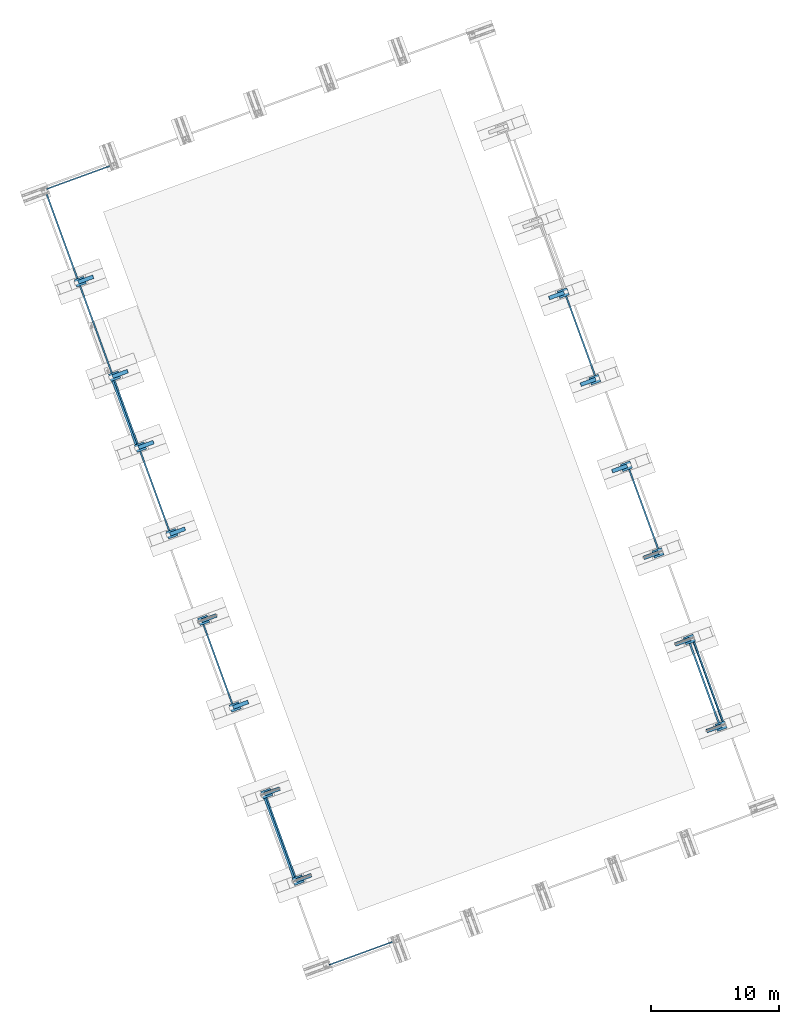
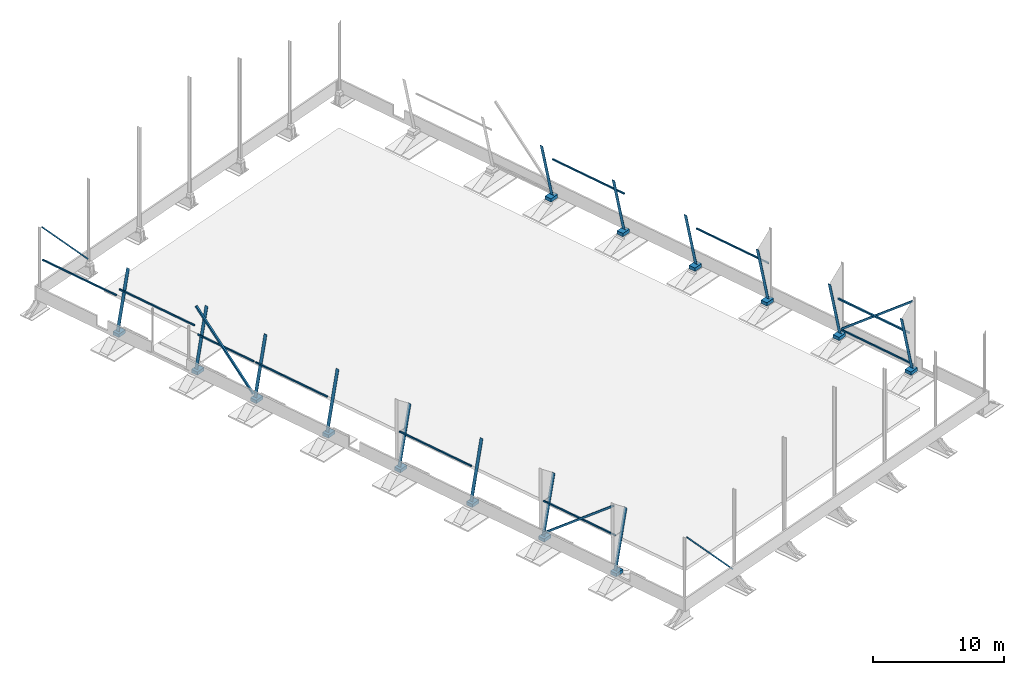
# One storey, part 8 of 20: 24 beams, 19 members, 43 elements without a shape of their own.
"""IFC4 building model written with IfcOpenShell, lengths in millimetres."""

from ifc_helpers import new_model, si_unit, direction, frame, origin_with_axes, place, context, subcontext, project, spatial, line, indexed_curve, outline, extrude, material, element, aggregate, save


model = new_model("IFC4")

# Units and contexts
model_context = context("Model", 3, precision=0.2, world=frame((203566.813, 116264.779, 0.0), z_axis=(0.0, 0.0, 1.0), x_axis=(1.0, 0.0, 0.0)), true_north=direction((-0.9396138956, -0.3422363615)))
body_context = subcontext(model_context, "Body", "Model", "MODEL_VIEW")
ifc_project = project(units=[si_unit("LENGTHUNIT", "METRE", prefix="MILLI"), si_unit("AREAUNIT", "SQUARE_METRE"), si_unit("VOLUMEUNIT", "CUBIC_METRE"), si_unit("MASSUNIT", "GRAM", prefix="KILO"), si_unit("TIMEUNIT", "SECOND"), si_unit("PLANEANGLEUNIT", "RADIAN"), si_unit("SOLIDANGLEUNIT", "STERADIAN"), si_unit("THERMODYNAMICTEMPERATUREUNIT", "DEGREE_CELSIUS"), si_unit("LUMINOUSINTENSITYUNIT", "LUMEN")], contexts=[model_context])

# Site, building, storey
site_placement = place(None, origin_with_axes())
site = spatial("IfcSite", under=ifc_project, at=site_placement, Name="Nobelprojektet", CompositionType="ELEMENT")
building_placement = place(site_placement, origin_with_axes())
building = spatial("IfcBuilding", under=site, at=building_placement, Name="Hall B", CompositionType="ELEMENT")
storey_placement = place(building_placement, frame((0.0, 0.0, 1000.0), z_axis=(0.0, 0.0, 1.0), x_axis=(1.0, 0.0, 0.0)))
storey = spatial("IfcBuildingStorey", under=building, at=storey_placement, Name="Plan_1", CompositionType="ELEMENT", Elevation=1000.0)

# Assembly, member
assembly_1_placement = place(storey_placement, frame((148302.31874, 119778.5919, 132198.26321), z_axis=(0.9144795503, 0.3330824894, -0.2297459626), x_axis=(0.215872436, 0.078627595, 0.973250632)))
assembly_1 = element("IfcElementAssembly", 1, at=assembly_1_placement, inside=storey, Name="BEF. STOMME", PredefinedType="NOTDEFINED")
ifc_material_1 = material(Name="S355J2", Category="STEEL")
member_1_placement = place(assembly_1_placement, origin_with_axes())
member_1 = element("IfcMember", 2, at=member_1_placement, material=ifc_material_1, Name="BEF. STOMME", PredefinedType="NOTDEFINED", context=body_context, shape_type="SolidModel", body=[
    extrude(outline(indexed_curve([(-7.5, -150.0), (7.5, -150.0), (7.5, 150.0), (-7.5, 150.0)], segments=[line(1, 2, 3, 4, 1)])), frame((0.0, 0.0, 0.0), z_axis=(-1.0, 0.0, 0.0), x_axis=(0.0, 0.0, 1.0)), (0.0, 0.0, -1.0), 5396.42619),
])
aggregate(assembly_1, [member_1])

assembly_2_placement = place(storey_placement, frame((181533.44743, 131882.42393, 132198.26102), z_axis=(0.9144795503, 0.3330824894, 0.2297459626), x_axis=(-0.215872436, -0.078627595, 0.973250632)))
assembly_2 = element("IfcElementAssembly", 3, at=assembly_2_placement, inside=storey, Name="BEF. STOMME", PredefinedType="NOTDEFINED")
member_2_placement = place(assembly_2_placement, origin_with_axes())
member_2 = element("IfcMember", 4, at=member_2_placement, material=ifc_material_1, Name="BEF. STOMME", PredefinedType="NOTDEFINED", context=body_context, shape_type="SolidModel", body=[
    extrude(outline(indexed_curve([(-7.5, -150.0), (7.5, -150.0), (7.5, 150.0), (-7.5, 150.0)], segments=[line(1, 2, 3, 4, 1)])), frame((0.0, 0.0, 0.0), z_axis=(-1.0, 0.0, 0.0), x_axis=(0.0, 0.0, 1.0)), (0.0, 0.0, -1.0), 5396.42619),
])
aggregate(assembly_2, [member_2])

assembly_3_placement = place(storey_placement, frame((145838.21137, 126543.80947, 132198.26321), z_axis=(0.9144795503, 0.3330824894, -0.2297459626), x_axis=(0.215872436, 0.078627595, 0.973250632)))
assembly_3 = element("IfcElementAssembly", 5, at=assembly_3_placement, inside=storey, Name="BEF. STOMME", PredefinedType="NOTDEFINED")
member_3_placement = place(assembly_3_placement, origin_with_axes())
member_3 = element("IfcMember", 6, at=member_3_placement, material=ifc_material_1, Name="BEF. STOMME", PredefinedType="NOTDEFINED", context=body_context, shape_type="SolidModel", body=[
    extrude(outline(indexed_curve([(-7.5, -150.0), (7.5, -150.0), (7.5, 150.0), (-7.5, 150.0)], segments=[line(1, 2, 3, 4, 1)])), frame((0.0, 0.0, 0.0), z_axis=(-1.0, 0.0, 0.0), x_axis=(0.0, 0.0, 1.0)), (0.0, 0.0, -1.0), 5396.42619),
])
aggregate(assembly_3, [member_3])

assembly_4_placement = place(storey_placement, frame((179069.34014, 138647.64225, 132198.26102), z_axis=(0.9144795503, 0.3330824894, 0.2297459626), x_axis=(-0.215872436, -0.078627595, 0.973250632)))
assembly_4 = element("IfcElementAssembly", 7, at=assembly_4_placement, inside=storey, Name="BEF. STOMME", PredefinedType="NOTDEFINED")
member_4_placement = place(assembly_4_placement, origin_with_axes())
member_4 = element("IfcMember", 8, at=member_4_placement, material=ifc_material_1, Name="BEF. STOMME", PredefinedType="NOTDEFINED", context=body_context, shape_type="SolidModel", body=[
    extrude(outline(indexed_curve([(-7.5, -150.0), (7.5, -150.0), (7.5, 150.0), (-7.5, 150.0)], segments=[line(1, 2, 3, 4, 1)])), frame((0.0, 0.0, 0.0), z_axis=(-1.0, 0.0, 0.0), x_axis=(0.0, 0.0, 1.0)), (0.0, 0.0, -1.0), 5396.42619),
])
aggregate(assembly_4, [member_4])

assembly_5_placement = place(storey_placement, frame((140909.99648, 140074.24606, 132198.26321), z_axis=(0.9144795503, 0.3330824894, -0.2297459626), x_axis=(0.215872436, 0.078627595, 0.973250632)))
assembly_5 = element("IfcElementAssembly", 9, at=assembly_5_placement, inside=storey, Name="BEF. STOMME", PredefinedType="NOTDEFINED")
member_5_placement = place(assembly_5_placement, origin_with_axes())
member_5 = element("IfcMember", 10, at=member_5_placement, material=ifc_material_1, Name="BEF. STOMME", PredefinedType="NOTDEFINED", context=body_context, shape_type="SolidModel", body=[
    extrude(outline(indexed_curve([(-7.5, -150.0), (7.5, -150.0), (7.5, 150.0), (-7.5, 150.0)], segments=[line(1, 2, 3, 4, 1)])), frame((0.0, 0.0, 0.0), z_axis=(-1.0, 0.0, 0.0), x_axis=(0.0, 0.0, 1.0)), (0.0, 0.0, -1.0), 5396.42619),
])
aggregate(assembly_5, [member_5])

assembly_6_placement = place(storey_placement, frame((176605.23286, 145412.86058, 132198.26102), z_axis=(0.9144795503, 0.3330824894, 0.2297459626), x_axis=(-0.215872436, -0.078627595, 0.973250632)))
assembly_6 = element("IfcElementAssembly", 11, at=assembly_6_placement, inside=storey, Name="BEF. STOMME", PredefinedType="NOTDEFINED")
member_6_placement = place(assembly_6_placement, origin_with_axes())
member_6 = element("IfcMember", 12, at=member_6_placement, material=ifc_material_1, Name="BEF. STOMME", PredefinedType="NOTDEFINED", context=body_context, shape_type="SolidModel", body=[
    extrude(outline(indexed_curve([(-7.5, -150.0), (7.5, -150.0), (7.5, 150.0), (-7.5, 150.0)], segments=[line(1, 2, 3, 4, 1)])), frame((0.0, 0.0, 0.0), z_axis=(-1.0, 0.0, 0.0), x_axis=(0.0, 0.0, 1.0)), (0.0, 0.0, -1.0), 5396.42619),
])
aggregate(assembly_6, [member_6])

# Assembly, beam
assembly_7_placement = place(storey_placement, frame((148329.37262, 119776.66387, 135487.49505), z_axis=(0.0, 0.0, -1.0), x_axis=(-0.3422371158, 0.9396136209, 1.3e-09)))
assembly_7 = element("IfcElementAssembly", 13, at=assembly_7_placement, inside=storey, Name="BEF. STOMME", PredefinedType="NOTDEFINED")
beam_1_placement = place(assembly_7_placement, origin_with_axes())
beam_1 = element("IfcBeam", 14, at=beam_1_placement, material=ifc_material_1, Name="BEF. STOMME", PredefinedType="NOTDEFINED", context=body_context, shape_type="SolidModel", body=[
    extrude(outline(indexed_curve([(-60.0, -60.0), (60.0, -60.0), (60.0, 60.0), (-60.0, 60.0)], segments=[line(1, 2, 3, 4, 1)]), holes=[indexed_curve([(-55.0, -55.0), (-55.0, 55.0), (55.0, 55.0), (55.0, -55.0)], segments=[line(1, 2, 3, 4, 1)])]), frame((0.0, 0.0, 0.0), z_axis=(-1.0, 0.0, 0.0), x_axis=(0.0, 0.0, 1.0)), (0.0, 0.0, -1.0), 7192.0),
])
aggregate(assembly_7, [beam_1])

assembly_8_placement = place(storey_placement, frame((143401.15815, 133307.10001, 135487.49505), z_axis=(0.0, 0.0, -1.0), x_axis=(-0.3422371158, 0.9396136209, 1.3e-09)))
assembly_8 = element("IfcElementAssembly", 15, at=assembly_8_placement, inside=storey, Name="BEF. STOMME", PredefinedType="NOTDEFINED")
beam_2_placement = place(assembly_8_placement, origin_with_axes())
beam_2 = element("IfcBeam", 16, at=beam_2_placement, material=ifc_material_1, Name="BEF. STOMME", PredefinedType="NOTDEFINED", context=body_context, shape_type="SolidModel", body=[
    extrude(outline(indexed_curve([(-60.0, -60.0), (60.0, -60.0), (60.0, 60.0), (-60.0, 60.0)], segments=[line(1, 2, 3, 4, 1)]), holes=[indexed_curve([(-55.0, -55.0), (-55.0, 55.0), (55.0, 55.0), (55.0, -55.0)], segments=[line(1, 2, 3, 4, 1)])]), frame((0.0, 0.0, 0.0), z_axis=(-1.0, 0.0, 0.0), x_axis=(0.0, 0.0, 1.0)), (0.0, 0.0, -1.0), 7192.0),
])
aggregate(assembly_8, [beam_2])

assembly_9_placement = place(storey_placement, frame((138472.94368, 146837.53615, 135487.49505), z_axis=(0.0, 0.0, -1.0), x_axis=(-0.3422371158, 0.9396136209, 1.3e-09)))
assembly_9 = element("IfcElementAssembly", 17, at=assembly_9_placement, inside=storey, Name="BEF. STOMME", PredefinedType="NOTDEFINED")
beam_3_placement = place(assembly_9_placement, origin_with_axes())
beam_3 = element("IfcBeam", 18, at=beam_3_placement, material=ifc_material_1, Name="BEF. STOMME", PredefinedType="NOTDEFINED", context=body_context, shape_type="SolidModel", body=[
    extrude(outline(indexed_curve([(-60.0, -60.0), (60.0, -60.0), (60.0, 60.0), (-60.0, 60.0)], segments=[line(1, 2, 3, 4, 1)]), holes=[indexed_curve([(-55.0, -55.0), (-55.0, 55.0), (55.0, 55.0), (55.0, -55.0)], segments=[line(1, 2, 3, 4, 1)])]), frame((0.0, 0.0, 0.0), z_axis=(-1.0, 0.0, 0.0), x_axis=(0.0, 0.0, 1.0)), (0.0, 0.0, -1.0), 7192.0),
])
aggregate(assembly_9, [beam_3])

assembly_10_placement = place(storey_placement, frame((131244.15656, 166684.20539, 135487.49505), z_axis=(0.0, 0.0, -1.0), x_axis=(-0.3422371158, 0.9396136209, 1.3e-09)))
assembly_10 = element("IfcElementAssembly", 19, at=assembly_10_placement, inside=storey, Name="BEF. STOMME", PredefinedType="NOTDEFINED")
beam_4_placement = place(assembly_10_placement, origin_with_axes())
beam_4 = element("IfcBeam", 20, at=beam_4_placement, material=ifc_material_1, Name="BEF. STOMME", PredefinedType="NOTDEFINED", context=body_context, shape_type="SolidModel", body=[
    extrude(outline(indexed_curve([(-60.0, -60.0), (60.0, -60.0), (60.0, 60.0), (-60.0, 60.0)], segments=[line(1, 2, 3, 4, 1)]), holes=[indexed_curve([(-55.0, -55.0), (-55.0, 55.0), (55.0, 55.0), (55.0, -55.0)], segments=[line(1, 2, 3, 4, 1)])]), frame((0.0, 0.0, 0.0), z_axis=(-1.0, 0.0, 0.0), x_axis=(0.0, 0.0, 1.0)), (0.0, 0.0, -1.0), 7370.0),
])
aggregate(assembly_10, [beam_4])

assembly_11_placement = place(storey_placement, frame((181361.3799, 131938.39572, 135487.49505), z_axis=(0.0, 0.0, -1.0), x_axis=(-0.3422371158, 0.9396136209, 1.3e-09)))
assembly_11 = element("IfcElementAssembly", 21, at=assembly_11_placement, inside=storey, Name="BEF. STOMME", PredefinedType="NOTDEFINED")
beam_5_placement = place(assembly_11_placement, origin_with_axes())
beam_5 = element("IfcBeam", 22, at=beam_5_placement, material=ifc_material_1, Name="BEF. STOMME", PredefinedType="NOTDEFINED", context=body_context, shape_type="SolidModel", body=[
    extrude(outline(indexed_curve([(-70.0, -70.0), (70.0, -70.0), (70.0, 70.0), (-70.0, 70.0)], segments=[line(1, 2, 3, 4, 1)]), holes=[indexed_curve([(-65.0, -65.0), (-65.0, 65.0), (65.0, 65.0), (65.0, -65.0)], segments=[line(1, 2, 3, 4, 1)])]), frame((0.0, 0.0, 0.0), z_axis=(-1.0, 0.0, 0.0), x_axis=(0.0, 0.0, 1.0)), (0.0, 0.0, -1.0), 7192.0),
])
aggregate(assembly_11, [beam_5])

assembly_12_placement = place(storey_placement, frame((176663.48033, 145422.29391, 135487.49505), z_axis=(0.0, 0.0, -1.0), x_axis=(-0.3422371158, 0.9396136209, 1.3e-09)))
assembly_12 = element("IfcElementAssembly", 23, at=assembly_12_placement, inside=storey, Name="BEF. STOMME", PredefinedType="NOTDEFINED")
beam_6_placement = place(assembly_12_placement, origin_with_axes())
beam_6 = element("IfcBeam", 24, at=beam_6_placement, material=ifc_material_1, Name="BEF. STOMME", PredefinedType="NOTDEFINED", context=body_context, shape_type="SolidModel", body=[
    extrude(outline(indexed_curve([(-60.0, -60.0), (60.0, -60.0), (60.0, 60.0), (-60.0, 60.0)], segments=[line(1, 2, 3, 4, 1)]), holes=[indexed_curve([(-55.0, -55.0), (-55.0, 55.0), (55.0, 55.0), (55.0, -55.0)], segments=[line(1, 2, 3, 4, 1)])]), frame((0.0, 0.0, 0.0), z_axis=(-1.0, 0.0, 0.0), x_axis=(0.0, 0.0, 1.0)), (0.0, 0.0, -1.0), 7192.0),
])
aggregate(assembly_12, [beam_6])

assembly_13_placement = place(storey_placement, frame((171735.26586, 158952.73005, 135487.49505), z_axis=(0.0, 0.0, -1.0), x_axis=(-0.3422371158, 0.9396136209, 1.3e-09)))
assembly_13 = element("IfcElementAssembly", 25, at=assembly_13_placement, inside=storey, Name="BEF. STOMME", PredefinedType="NOTDEFINED")
beam_7_placement = place(assembly_13_placement, origin_with_axes())
beam_7 = element("IfcBeam", 26, at=beam_7_placement, material=ifc_material_1, Name="BEF. STOMME", PredefinedType="NOTDEFINED", context=body_context, shape_type="SolidModel", body=[
    extrude(outline(indexed_curve([(-60.0, -60.0), (60.0, -60.0), (60.0, 60.0), (-60.0, 60.0)], segments=[line(1, 2, 3, 4, 1)]), holes=[indexed_curve([(-55.0, -55.0), (-55.0, 55.0), (55.0, 55.0), (55.0, -55.0)], segments=[line(1, 2, 3, 4, 1)])]), frame((0.0, 0.0, 0.0), z_axis=(-1.0, 0.0, 0.0), x_axis=(0.0, 0.0, 1.0)), (0.0, 0.0, -1.0), 7192.0),
])
aggregate(assembly_13, [beam_7])

# Assembly, member
assembly_14_placement = place(storey_placement, frame((150851.25706, 113187.86282, 138411.36493), z_axis=(-0.68978234, -0.2512406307, -0.6790275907), x_axis=(0.638023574, 0.232388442, -0.7341127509)))
assembly_14 = element("IfcElementAssembly", 27, at=assembly_14_placement, inside=storey, Name="BEF. STOMME", PredefinedType="NOTDEFINED")
member_7_placement = place(assembly_14_placement, origin_with_axes())
member_7 = element("IfcMember", 28, at=member_7_placement, material=ifc_material_1, Name="BEF. STOMME", PredefinedType="NOTDEFINED", context=body_context, shape_type="SolidModel", body=[
    extrude(outline(indexed_curve([(-50.0, -50.0), (50.0, -50.0), (50.0, 50.0), (-50.0, 50.0)], segments=[line(1, 2, 3, 4, 1)]), holes=[indexed_curve([(-46.0, -46.0), (-46.0, 46.0), (46.0, 46.0), (46.0, -46.0)], segments=[line(1, 2, 3, 4, 1)])]), frame((0.0, 0.0, 0.0), z_axis=(-1.0, 0.0, 0.0), x_axis=(0.0, 0.0, 1.0)), (0.0, 0.0, -1.0), 8019.5606),
])
aggregate(assembly_14, [member_7])

assembly_15_placement = place(storey_placement, frame((128776.95531, 173792.96272, 138411.36493), z_axis=(0.68978234, 0.2512406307, 0.6790275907), x_axis=(0.638023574, 0.232388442, -0.7341127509)))
assembly_15 = element("IfcElementAssembly", 29, at=assembly_15_placement, inside=storey, Name="BEF. STOMME", PredefinedType="NOTDEFINED")
member_8_placement = place(assembly_15_placement, origin_with_axes())
member_8 = element("IfcMember", 30, at=member_8_placement, material=ifc_material_1, Name="BEF. STOMME", PredefinedType="NOTDEFINED", context=body_context, shape_type="SolidModel", body=[
    extrude(outline(indexed_curve([(-50.0, -50.0), (50.0, -50.0), (50.0, 50.0), (-50.0, 50.0)], segments=[line(1, 2, 3, 4, 1)]), holes=[indexed_curve([(-46.0, -46.0), (-46.0, 46.0), (46.0, 46.0), (46.0, -46.0)], segments=[line(1, 2, 3, 4, 1)])]), frame((0.0, 0.0, 0.0), z_axis=(-1.0, 0.0, 0.0), x_axis=(0.0, 0.0, 1.0)), (0.0, 0.0, -1.0), 8019.5606),
])
aggregate(assembly_15, [member_8])

# Assembly, beam
assembly_16_placement = place(storey_placement, frame((181729.23833, 131946.21256, 132400.00505), z_axis=(0.0, 0.0, -1.0), x_axis=(-0.3422371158, 0.9396136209, 1.3e-09)))
assembly_16 = element("IfcElementAssembly", 31, at=assembly_16_placement, inside=storey, Name="BEF. STOMME", PredefinedType="NOTDEFINED")
beam_8_placement = place(assembly_16_placement, origin_with_axes())
beam_8 = element("IfcBeam", 32, at=beam_8_placement, material=ifc_material_1, Name="BEF. STOMME", PredefinedType="NOTDEFINED", context=body_context, shape_type="SolidModel", body=[
    extrude(outline(indexed_curve([(-60.0, -60.0), (60.0, -60.0), (60.0, 60.0), (-60.0, 60.0)], segments=[line(1, 2, 3, 4, 1)]), holes=[indexed_curve([(-55.0, -55.0), (-55.0, 55.0), (55.0, 55.0), (55.0, -55.0)], segments=[line(1, 2, 3, 4, 1)])]), frame((0.0, 0.0, 0.0), z_axis=(-1.0, 0.0, 0.0), x_axis=(0.0, 0.0, 1.0)), (0.0, 0.0, -1.0), 7192.0),
])
aggregate(assembly_16, [beam_8])

# Assembly, member
assembly_17_placement = place(storey_placement, frame((181676.95473, 132031.31841, 138279.10505), z_axis=(0.2160743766, -0.5932332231, -0.7754909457), x_axis=(-0.2654017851, 0.7286618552, -0.6313586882)))
assembly_17 = element("IfcElementAssembly", 33, at=assembly_17_placement, inside=storey, Name="BEF. STOMME", PredefinedType="NOTDEFINED")
member_9_placement = place(assembly_17_placement, origin_with_axes())
member_9 = element("IfcMember", 34, at=member_9_placement, material=ifc_material_1, Name="BEF. STOMME", PredefinedType="NOTDEFINED", context=body_context, shape_type="SolidModel", body=[
    extrude(outline(indexed_curve([(-80.0, -80.0), (80.0, -80.0), (80.0, 80.0), (-80.0, 80.0)], segments=[line(1, 2, 3, 4, 1)]), holes=[indexed_curve([(-74.0, -74.0), (-74.0, 74.0), (74.0, 74.0), (74.0, -74.0)], segments=[line(1, 2, 3, 4, 1)])]), frame((0.0, 0.0, 0.0), z_axis=(-1.0, 0.0, 0.0), x_axis=(0.0, 0.0, 1.0)), (0.0, 0.0, -1.0), 9081.03446),
])
aggregate(assembly_17, [member_9])

# Assembly, beam
assembly_18_placement = place(storey_placement, frame((133923.8766, 159327.02134, 136189.99505), z_axis=(0.0, 0.0, -1.0), x_axis=(-0.3422371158, 0.9396136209, 1.3e-09)))
assembly_18 = element("IfcElementAssembly", 35, at=assembly_18_placement, inside=storey, Name="BEF. STOMME", PredefinedType="NOTDEFINED")
beam_9_placement = place(assembly_18_placement, origin_with_axes())
beam_9 = element("IfcBeam", 36, at=beam_9_placement, material=ifc_material_1, Name="BEF. STOMME", PredefinedType="NOTDEFINED", context=body_context, shape_type="SolidModel", body=[
    extrude(outline(indexed_curve([(-60.0, -60.0), (60.0, -60.0), (60.0, 60.0), (-60.0, 60.0)], segments=[line(1, 2, 3, 4, 1)]), holes=[indexed_curve([(-55.0, -55.0), (-55.0, 55.0), (55.0, 55.0), (55.0, -55.0)], segments=[line(1, 2, 3, 4, 1)])]), frame((0.0, 0.0, 0.0), z_axis=(-1.0, 0.0, 0.0), x_axis=(0.0, 0.0, 1.0)), (0.0, 0.0, -1.0), 7510.0),
])
aggregate(assembly_18, [beam_9])

assembly_19_placement = place(storey_placement, frame((135955.3927, 153749.48428, 135487.49505), z_axis=(0.0, 0.0, -1.0), x_axis=(-0.3422371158, 0.9396136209, 1.3e-09)))
assembly_19 = element("IfcElementAssembly", 37, at=assembly_19_placement, inside=storey, Name="BEF. STOMME", PredefinedType="NOTDEFINED")
beam_10_placement = place(assembly_19_placement, origin_with_axes())
beam_10 = element("IfcBeam", 38, at=beam_10_placement, material=ifc_material_1, Name="BEF. STOMME", PredefinedType="NOTDEFINED", context=body_context, shape_type="SolidModel", body=[
    extrude(outline(indexed_curve([(-60.0, -60.0), (60.0, -60.0), (60.0, 60.0), (-60.0, 60.0)], segments=[line(1, 2, 3, 4, 1)]), holes=[indexed_curve([(-55.0, -55.0), (-55.0, 55.0), (55.0, 55.0), (55.0, -55.0)], segments=[line(1, 2, 3, 4, 1)])]), frame((0.0, 0.0, 0.0), z_axis=(-1.0, 0.0, 0.0), x_axis=(0.0, 0.0, 1.0)), (0.0, 0.0, -1.0), 5617.0),
])
aggregate(assembly_19, [beam_10])

# Assembly, member
assembly_20_placement = place(storey_placement, frame((133880.67684, 159042.85794, 138202.289), z_axis=(0.2404468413, -0.6601479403, 0.7116108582), x_axis=(0.243539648, -0.668639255, -0.70257383)))
assembly_20 = element("IfcElementAssembly", 39, at=assembly_20_placement, inside=storey, Name="BEF. STOMME", PredefinedType="NOTDEFINED")
member_10_placement = place(assembly_20_placement, origin_with_axes())
member_10 = element("IfcMember", 40, at=member_10_placement, material=ifc_material_1, Name="BEF. STOMME", PredefinedType="NOTDEFINED", context=body_context, shape_type="SolidModel", body=[
    extrude(outline(indexed_curve([(-80.0, -80.0), (80.0, -80.0), (80.0, 80.0), (-80.0, 80.0)], segments=[line(1, 2, 3, 4, 1)]), holes=[indexed_curve([(-74.0, -74.0), (-74.0, 74.0), (74.0, 74.0), (74.0, -74.0)], segments=[line(1, 2, 3, 4, 1)])]), frame((0.0, 0.0, 0.0), z_axis=(-1.0, 0.0, 0.0), x_axis=(0.0, 0.0, 1.0)), (0.0, 0.0, -1.0), 8059.93135),
])
aggregate(assembly_20, [member_10])

assembly_21_placement = place(storey_placement, frame((148166.30651, 119821.59409, 138279.089), z_axis=(0.2160743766, -0.5932332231, -0.7754909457), x_axis=(-0.2654017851, 0.7286618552, -0.6313586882)))
assembly_21 = element("IfcElementAssembly", 41, at=assembly_21_placement, inside=storey, Name="BEF. STOMME", PredefinedType="NOTDEFINED")
member_11_placement = place(assembly_21_placement, origin_with_axes())
member_11 = element("IfcMember", 42, at=member_11_placement, material=ifc_material_1, Name="BEF. STOMME", PredefinedType="NOTDEFINED", context=body_context, shape_type="SolidModel", body=[
    extrude(outline(indexed_curve([(-80.0, -80.0), (80.0, -80.0), (80.0, 80.0), (-80.0, 80.0)], segments=[line(1, 2, 3, 4, 1)]), holes=[indexed_curve([(-74.0, -74.0), (-74.0, 74.0), (74.0, 74.0), (74.0, -74.0)], segments=[line(1, 2, 3, 4, 1)])]), frame((0.0, 0.0, 0.0), z_axis=(-1.0, 0.0, 0.0), x_axis=(0.0, 0.0, 1.0)), (0.0, 0.0, -1.0), 9081.02833),
])
aggregate(assembly_21, [member_11])

# Assembly, beam
assembly_22_placement = place(storey_placement, frame((168774.52676, 165532.80003, 132024.99996), z_axis=(0.3422371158, -0.9396136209, 1.3e-09), x_axis=(0.9396136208, 0.3422371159, 0.0)))
assembly_22 = element("IfcElementAssembly", 43, at=assembly_22_placement, inside=storey, Name="BALK", PredefinedType="NOTDEFINED")
ifc_material_2 = material(Name="C25/30", Category="CONCRETE")
beam_11_placement = place(assembly_22_placement, origin_with_axes())
beam_11 = element("IfcBeam", 44, at=beam_11_placement, material=ifc_material_2, Name="BALK", PredefinedType="NOTDEFINED", context=body_context, shape_type="SolidModel", body=[
    extrude(outline(indexed_curve([(-300.0, -155.0), (300.0, -155.0), (300.0, 155.0), (-300.0, 155.0)], segments=[line(1, 2, 3, 4, 1)])), frame((0.0, 0.0, 0.0), z_axis=(-1.0, 0.0, 0.0), x_axis=(0.0, 0.0, 1.0)), (0.0, 0.0, -1.0), 800.0),
])
aggregate(assembly_22, [beam_11])

assembly_23_placement = place(storey_placement, frame((171238.634, 158767.58196, 132024.99996), z_axis=(0.3422371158, -0.9396136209, 1.3e-09), x_axis=(0.9396136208, 0.3422371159, 0.0)))
assembly_23 = element("IfcElementAssembly", 45, at=assembly_23_placement, inside=storey, Name="BALK", PredefinedType="NOTDEFINED")
beam_12_placement = place(assembly_23_placement, origin_with_axes())
beam_12 = element("IfcBeam", 46, at=beam_12_placement, material=ifc_material_2, Name="BALK", PredefinedType="NOTDEFINED", context=body_context, shape_type="SolidModel", body=[
    extrude(outline(indexed_curve([(-300.0, -155.0), (300.0, -155.0), (300.0, 155.0), (-300.0, 155.0)], segments=[line(1, 2, 3, 4, 1)])), frame((0.0, 0.0, 0.0), z_axis=(-1.0, 0.0, 0.0), x_axis=(0.0, 0.0, 1.0)), (0.0, 0.0, -1.0), 800.0),
])
aggregate(assembly_23, [beam_12])

assembly_24_placement = place(storey_placement, frame((173702.74123, 152002.36389, 132024.99996), z_axis=(0.3422371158, -0.9396136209, 1.3e-09), x_axis=(0.9396136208, 0.3422371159, 0.0)))
assembly_24 = element("IfcElementAssembly", 47, at=assembly_24_placement, inside=storey, Name="BALK", PredefinedType="NOTDEFINED")
beam_13_placement = place(assembly_24_placement, origin_with_axes())
beam_13 = element("IfcBeam", 48, at=beam_13_placement, material=ifc_material_2, Name="BALK", PredefinedType="NOTDEFINED", context=body_context, shape_type="SolidModel", body=[
    extrude(outline(indexed_curve([(-300.0, -155.0), (300.0, -155.0), (300.0, 155.0), (-300.0, 155.0)], segments=[line(1, 2, 3, 4, 1)])), frame((0.0, 0.0, 0.0), z_axis=(-1.0, 0.0, 0.0), x_axis=(0.0, 0.0, 1.0)), (0.0, 0.0, -1.0), 800.0),
])
aggregate(assembly_24, [beam_13])

assembly_25_placement = place(storey_placement, frame((176166.84846, 145237.14582, 132024.99996), z_axis=(0.3422371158, -0.9396136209, 1.3e-09), x_axis=(0.9396136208, 0.3422371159, 0.0)))
assembly_25 = element("IfcElementAssembly", 49, at=assembly_25_placement, inside=storey, Name="BALK", PredefinedType="NOTDEFINED")
beam_14_placement = place(assembly_25_placement, origin_with_axes())
beam_14 = element("IfcBeam", 50, at=beam_14_placement, material=ifc_material_2, Name="BALK", PredefinedType="NOTDEFINED", context=body_context, shape_type="SolidModel", body=[
    extrude(outline(indexed_curve([(-300.0, -155.0), (300.0, -155.0), (300.0, 155.0), (-300.0, 155.0)], segments=[line(1, 2, 3, 4, 1)])), frame((0.0, 0.0, 0.0), z_axis=(-1.0, 0.0, 0.0), x_axis=(0.0, 0.0, 1.0)), (0.0, 0.0, -1.0), 800.0),
])
aggregate(assembly_25, [beam_14])

assembly_26_placement = place(storey_placement, frame((178630.9557, 138471.92775, 132024.99996), z_axis=(0.3422371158, -0.9396136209, 1.3e-09), x_axis=(0.9396136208, 0.3422371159, 0.0)))
assembly_26 = element("IfcElementAssembly", 51, at=assembly_26_placement, inside=storey, Name="BALK", PredefinedType="NOTDEFINED")
beam_15_placement = place(assembly_26_placement, origin_with_axes())
beam_15 = element("IfcBeam", 52, at=beam_15_placement, material=ifc_material_2, Name="BALK", PredefinedType="NOTDEFINED", context=body_context, shape_type="SolidModel", body=[
    extrude(outline(indexed_curve([(-300.0, -155.0), (300.0, -155.0), (300.0, 155.0), (-300.0, 155.0)], segments=[line(1, 2, 3, 4, 1)])), frame((0.0, 0.0, 0.0), z_axis=(-1.0, 0.0, 0.0), x_axis=(0.0, 0.0, 1.0)), (0.0, 0.0, -1.0), 800.0),
])
aggregate(assembly_26, [beam_15])

assembly_27_placement = place(storey_placement, frame((181095.06293, 131706.70968, 132024.99996), z_axis=(0.3422371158, -0.9396136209, 1.3e-09), x_axis=(0.9396136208, 0.3422371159, 0.0)))
assembly_27 = element("IfcElementAssembly", 53, at=assembly_27_placement, inside=storey, Name="BALK", PredefinedType="NOTDEFINED")
beam_16_placement = place(assembly_27_placement, origin_with_axes())
beam_16 = element("IfcBeam", 54, at=beam_16_placement, material=ifc_material_2, Name="BALK", PredefinedType="NOTDEFINED", context=body_context, shape_type="SolidModel", body=[
    extrude(outline(indexed_curve([(-300.0, -155.0), (300.0, -155.0), (300.0, 155.0), (-300.0, 155.0)], segments=[line(1, 2, 3, 4, 1)])), frame((0.0, 0.0, 0.0), z_axis=(-1.0, 0.0, 0.0), x_axis=(0.0, 0.0, 1.0)), (0.0, 0.0, -1.0), 800.0),
])
aggregate(assembly_27, [beam_16])

assembly_28_placement = place(storey_placement, frame((131802.44017, 166700.06693, 132024.99996), z_axis=(-0.3422371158, 0.9396136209, 1.3e-09), x_axis=(-0.9396136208, -0.3422371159, 0.0)))
assembly_28 = element("IfcElementAssembly", 55, at=assembly_28_placement, inside=storey, Name="BALK", PredefinedType="NOTDEFINED")
beam_17_placement = place(assembly_28_placement, origin_with_axes())
beam_17 = element("IfcBeam", 56, at=beam_17_placement, material=ifc_material_2, Name="BALK", PredefinedType="NOTDEFINED", context=body_context, shape_type="SolidModel", body=[
    extrude(outline(indexed_curve([(-300.0, -155.0), (300.0, -155.0), (300.0, 155.0), (-300.0, 155.0)], segments=[line(1, 2, 3, 4, 1)])), frame((0.0, 0.0, 0.0), z_axis=(-1.0, 0.0, 0.0), x_axis=(0.0, 0.0, 1.0)), (0.0, 0.0, -1.0), 800.0),
])
aggregate(assembly_28, [beam_17])

assembly_29_placement = place(storey_placement, frame((134489.00153, 159324.1, 132024.99996), z_axis=(-0.3422371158, 0.9396136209, 1.3e-09), x_axis=(-0.9396136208, -0.3422371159, 0.0)))
assembly_29 = element("IfcElementAssembly", 57, at=assembly_29_placement, inside=storey, Name="BALK", PredefinedType="NOTDEFINED")
beam_18_placement = place(assembly_29_placement, origin_with_axes())
beam_18 = element("IfcBeam", 58, at=beam_18_placement, material=ifc_material_2, Name="BALK", PredefinedType="NOTDEFINED", context=body_context, shape_type="SolidModel", body=[
    extrude(outline(indexed_curve([(-300.0, -155.0), (300.0, -155.0), (300.0, 155.0), (-300.0, 155.0)], segments=[line(1, 2, 3, 4, 1)])), frame((0.0, 0.0, 0.0), z_axis=(-1.0, 0.0, 0.0), x_axis=(0.0, 0.0, 1.0)), (0.0, 0.0, -1.0), 800.0),
])
aggregate(assembly_29, [beam_18])

assembly_30_placement = place(storey_placement, frame((136508.20051, 153780.37964, 132024.99996), z_axis=(-0.3422371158, 0.9396136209, 1.3e-09), x_axis=(-0.9396136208, -0.3422371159, 0.0)))
assembly_30 = element("IfcElementAssembly", 59, at=assembly_30_placement, inside=storey, Name="BALK", PredefinedType="NOTDEFINED")
beam_19_placement = place(assembly_30_placement, origin_with_axes())
beam_19 = element("IfcBeam", 60, at=beam_19_placement, material=ifc_material_2, Name="BALK", PredefinedType="NOTDEFINED", context=body_context, shape_type="SolidModel", body=[
    extrude(outline(indexed_curve([(-300.0, -155.0), (300.0, -155.0), (300.0, 155.0), (-300.0, 155.0)], segments=[line(1, 2, 3, 4, 1)])), frame((0.0, 0.0, 0.0), z_axis=(-1.0, 0.0, 0.0), x_axis=(0.0, 0.0, 1.0)), (0.0, 0.0, -1.0), 800.0),
])
aggregate(assembly_30, [beam_19])

assembly_31_placement = place(storey_placement, frame((138972.30775, 147015.16157, 132024.99996), z_axis=(-0.3422371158, 0.9396136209, 1.3e-09), x_axis=(-0.9396136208, -0.3422371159, 0.0)))
assembly_31 = element("IfcElementAssembly", 61, at=assembly_31_placement, inside=storey, Name="BALK", PredefinedType="NOTDEFINED")
beam_20_placement = place(assembly_31_placement, origin_with_axes())
beam_20 = element("IfcBeam", 62, at=beam_20_placement, material=ifc_material_2, Name="BALK", PredefinedType="NOTDEFINED", context=body_context, shape_type="SolidModel", body=[
    extrude(outline(indexed_curve([(-300.0, -155.0), (300.0, -155.0), (300.0, 155.0), (-300.0, 155.0)], segments=[line(1, 2, 3, 4, 1)])), frame((0.0, 0.0, 0.0), z_axis=(-1.0, 0.0, 0.0), x_axis=(0.0, 0.0, 1.0)), (0.0, 0.0, -1.0), 800.0),
])
aggregate(assembly_31, [beam_20])

assembly_32_placement = place(storey_placement, frame((141436.41498, 140249.9435, 132024.99996), z_axis=(-0.3422371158, 0.9396136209, 1.3e-09), x_axis=(-0.9396136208, -0.3422371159, 0.0)))
assembly_32 = element("IfcElementAssembly", 63, at=assembly_32_placement, inside=storey, Name="BALK", PredefinedType="NOTDEFINED")
beam_21_placement = place(assembly_32_placement, origin_with_axes())
beam_21 = element("IfcBeam", 64, at=beam_21_placement, material=ifc_material_2, Name="BALK", PredefinedType="NOTDEFINED", context=body_context, shape_type="SolidModel", body=[
    extrude(outline(indexed_curve([(-300.0, -155.0), (300.0, -155.0), (300.0, 155.0), (-300.0, 155.0)], segments=[line(1, 2, 3, 4, 1)])), frame((0.0, 0.0, 0.0), z_axis=(-1.0, 0.0, 0.0), x_axis=(0.0, 0.0, 1.0)), (0.0, 0.0, -1.0), 800.0),
])
aggregate(assembly_32, [beam_21])

assembly_33_placement = place(storey_placement, frame((143900.52221, 133484.72543, 132024.99996), z_axis=(-0.3422371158, 0.9396136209, 1.3e-09), x_axis=(-0.9396136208, -0.3422371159, 0.0)))
assembly_33 = element("IfcElementAssembly", 65, at=assembly_33_placement, inside=storey, Name="BALK", PredefinedType="NOTDEFINED")
beam_22_placement = place(assembly_33_placement, origin_with_axes())
beam_22 = element("IfcBeam", 66, at=beam_22_placement, material=ifc_material_2, Name="BALK", PredefinedType="NOTDEFINED", context=body_context, shape_type="SolidModel", body=[
    extrude(outline(indexed_curve([(-300.0, -155.0), (300.0, -155.0), (300.0, 155.0), (-300.0, 155.0)], segments=[line(1, 2, 3, 4, 1)])), frame((0.0, 0.0, 0.0), z_axis=(-1.0, 0.0, 0.0), x_axis=(0.0, 0.0, 1.0)), (0.0, 0.0, -1.0), 800.0),
])
aggregate(assembly_33, [beam_22])

assembly_34_placement = place(storey_placement, frame((146364.62945, 126719.50736, 132024.99996), z_axis=(-0.3422371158, 0.9396136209, 1.3e-09), x_axis=(-0.9396136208, -0.3422371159, 0.0)))
assembly_34 = element("IfcElementAssembly", 67, at=assembly_34_placement, inside=storey, Name="BALK", PredefinedType="NOTDEFINED")
beam_23_placement = place(assembly_34_placement, origin_with_axes())
beam_23 = element("IfcBeam", 68, at=beam_23_placement, material=ifc_material_2, Name="BALK", PredefinedType="NOTDEFINED", context=body_context, shape_type="SolidModel", body=[
    extrude(outline(indexed_curve([(-300.0, -155.0), (300.0, -155.0), (300.0, 155.0), (-300.0, 155.0)], segments=[line(1, 2, 3, 4, 1)])), frame((0.0, 0.0, 0.0), z_axis=(-1.0, 0.0, 0.0), x_axis=(0.0, 0.0, 1.0)), (0.0, 0.0, -1.0), 800.0),
])
aggregate(assembly_34, [beam_23])

assembly_35_placement = place(storey_placement, frame((148828.73668, 119954.28929, 132024.99996), z_axis=(-0.3422371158, 0.9396136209, 1.3e-09), x_axis=(-0.9396136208, -0.3422371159, 0.0)))
assembly_35 = element("IfcElementAssembly", 69, at=assembly_35_placement, inside=storey, Name="BALK", PredefinedType="NOTDEFINED")
beam_24_placement = place(assembly_35_placement, origin_with_axes())
beam_24 = element("IfcBeam", 70, at=beam_24_placement, material=ifc_material_2, Name="BALK", PredefinedType="NOTDEFINED", context=body_context, shape_type="SolidModel", body=[
    extrude(outline(indexed_curve([(-300.0, -155.0), (300.0, -155.0), (300.0, 155.0), (-300.0, 155.0)], segments=[line(1, 2, 3, 4, 1)])), frame((0.0, 0.0, 0.0), z_axis=(-1.0, 0.0, 0.0), x_axis=(0.0, 0.0, 1.0)), (0.0, 0.0, -1.0), 800.0),
])
aggregate(assembly_35, [beam_24])

# Assembly, member
assembly_36_placement = place(storey_placement, frame((143375.04008, 133309.36837, 132198.26321), z_axis=(0.9144795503, 0.3330824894, -0.2297459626), x_axis=(0.215872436, 0.078627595, 0.973250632)))
assembly_36 = element("IfcElementAssembly", 71, at=assembly_36_placement, inside=storey, Name="BEF. STOMME", PredefinedType="NOTDEFINED")
member_12_placement = place(assembly_36_placement, origin_with_axes())
member_12 = element("IfcMember", 72, at=member_12_placement, material=ifc_material_1, Name="BEF. STOMME", PredefinedType="NOTDEFINED", context=body_context, shape_type="SolidModel", body=[
    extrude(outline(indexed_curve([(-7.5, -150.0), (7.5, -150.0), (7.5, 150.0), (-7.5, 150.0)], segments=[line(1, 2, 3, 4, 1)])), frame((0.0, 0.0, 0.0), z_axis=(-1.0, 0.0, 0.0), x_axis=(0.0, 0.0, 1.0)), (0.0, 0.0, -1.0), 5396.42619),
])
aggregate(assembly_36, [member_12])

assembly_37_placement = place(storey_placement, frame((138445.88924, 146839.46413, 132198.26321), z_axis=(0.9144795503, 0.3330824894, -0.2297459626), x_axis=(0.215872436, 0.078627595, 0.973250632)))
assembly_37 = element("IfcElementAssembly", 73, at=assembly_37_placement, inside=storey, Name="BEF. STOMME", PredefinedType="NOTDEFINED")
member_13_placement = place(assembly_37_placement, origin_with_axes())
member_13 = element("IfcMember", 74, at=member_13_placement, material=ifc_material_1, Name="BEF. STOMME", PredefinedType="NOTDEFINED", context=body_context, shape_type="SolidModel", body=[
    extrude(outline(indexed_curve([(-7.5, -150.0), (7.5, -150.0), (7.5, 150.0), (-7.5, 150.0)], segments=[line(1, 2, 3, 4, 1)])), frame((0.0, 0.0, 0.0), z_axis=(-1.0, 0.0, 0.0), x_axis=(0.0, 0.0, 1.0)), (0.0, 0.0, -1.0), 5396.42619),
])
aggregate(assembly_37, [member_13])

assembly_38_placement = place(storey_placement, frame((135981.782, 153604.6822, 132198.26321), z_axis=(0.9144795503, 0.3330824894, -0.2297459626), x_axis=(0.215872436, 0.078627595, 0.973250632)))
assembly_38 = element("IfcElementAssembly", 75, at=assembly_38_placement, inside=storey, Name="BEF. STOMME", PredefinedType="NOTDEFINED")
member_14_placement = place(assembly_38_placement, origin_with_axes())
member_14 = element("IfcMember", 76, at=member_14_placement, material=ifc_material_1, Name="BEF. STOMME", PredefinedType="NOTDEFINED", context=body_context, shape_type="SolidModel", body=[
    extrude(outline(indexed_curve([(-7.5, -150.0), (7.5, -150.0), (7.5, 150.0), (-7.5, 150.0)], segments=[line(1, 2, 3, 4, 1)])), frame((0.0, 0.0, 0.0), z_axis=(-1.0, 0.0, 0.0), x_axis=(0.0, 0.0, 1.0)), (0.0, 0.0, -1.0), 5396.42619),
])
aggregate(assembly_38, [member_14])

assembly_39_placement = place(storey_placement, frame((133962.58302, 159148.40256, 132198.26321), z_axis=(0.9144795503, 0.3330824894, -0.2297459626), x_axis=(0.215872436, 0.078627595, 0.973250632)))
assembly_39 = element("IfcElementAssembly", 77, at=assembly_39_placement, inside=storey, Name="BEF. STOMME", PredefinedType="NOTDEFINED")
member_15_placement = place(assembly_39_placement, origin_with_axes())
member_15 = element("IfcMember", 78, at=member_15_placement, material=ifc_material_1, Name="BEF. STOMME", PredefinedType="NOTDEFINED", context=body_context, shape_type="SolidModel", body=[
    extrude(outline(indexed_curve([(-7.5, -150.0), (7.5, -150.0), (7.5, 150.0), (-7.5, 150.0)], segments=[line(1, 2, 3, 4, 1)])), frame((0.0, 0.0, 0.0), z_axis=(-1.0, 0.0, 0.0), x_axis=(0.0, 0.0, 1.0)), (0.0, 0.0, -1.0), 5396.42619),
])
aggregate(assembly_39, [member_15])

assembly_40_placement = place(storey_placement, frame((131276.02166, 166524.36948, 132198.26321), z_axis=(0.9144795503, 0.3330824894, -0.2297459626), x_axis=(0.215872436, 0.078627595, 0.973250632)))
assembly_40 = element("IfcElementAssembly", 79, at=assembly_40_placement, inside=storey, Name="BEF. STOMME", PredefinedType="NOTDEFINED")
member_16_placement = place(assembly_40_placement, origin_with_axes())
member_16 = element("IfcMember", 80, at=member_16_placement, material=ifc_material_1, Name="BEF. STOMME", PredefinedType="NOTDEFINED", context=body_context, shape_type="SolidModel", body=[
    extrude(outline(indexed_curve([(-7.5, -150.0), (7.5, -150.0), (7.5, 150.0), (-7.5, 150.0)], segments=[line(1, 2, 3, 4, 1)])), frame((0.0, 0.0, 0.0), z_axis=(-1.0, 0.0, 0.0), x_axis=(0.0, 0.0, 1.0)), (0.0, 0.0, -1.0), 5396.42619),
])
aggregate(assembly_40, [member_16])

assembly_41_placement = place(storey_placement, frame((174141.12562, 152178.07865, 132198.26102), z_axis=(0.9144795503, 0.3330824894, 0.2297459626), x_axis=(-0.215872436, -0.078627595, 0.973250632)))
assembly_41 = element("IfcElementAssembly", 81, at=assembly_41_placement, inside=storey, Name="BEF. STOMME", PredefinedType="NOTDEFINED")
member_17_placement = place(assembly_41_placement, origin_with_axes())
member_17 = element("IfcMember", 82, at=member_17_placement, material=ifc_material_1, Name="BEF. STOMME", PredefinedType="NOTDEFINED", context=body_context, shape_type="SolidModel", body=[
    extrude(outline(indexed_curve([(-7.5, -150.0), (7.5, -150.0), (7.5, 150.0), (-7.5, 150.0)], segments=[line(1, 2, 3, 4, 1)])), frame((0.0, 0.0, 0.0), z_axis=(-1.0, 0.0, 0.0), x_axis=(0.0, 0.0, 1.0)), (0.0, 0.0, -1.0), 5396.42619),
])
aggregate(assembly_41, [member_17])

assembly_42_placement = place(storey_placement, frame((171677.01839, 158943.29672, 132198.26102), z_axis=(0.9144795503, 0.3330824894, 0.2297459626), x_axis=(-0.215872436, -0.078627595, 0.973250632)))
assembly_42 = element("IfcElementAssembly", 83, at=assembly_42_placement, inside=storey, Name="BEF. STOMME", PredefinedType="NOTDEFINED")
member_18_placement = place(assembly_42_placement, origin_with_axes())
member_18 = element("IfcMember", 84, at=member_18_placement, material=ifc_material_1, Name="BEF. STOMME", PredefinedType="NOTDEFINED", context=body_context, shape_type="SolidModel", body=[
    extrude(outline(indexed_curve([(-7.5, -150.0), (7.5, -150.0), (7.5, 150.0), (-7.5, 150.0)], segments=[line(1, 2, 3, 4, 1)])), frame((0.0, 0.0, 0.0), z_axis=(-1.0, 0.0, 0.0), x_axis=(0.0, 0.0, 1.0)), (0.0, 0.0, -1.0), 5396.42619),
])
aggregate(assembly_42, [member_18])

assembly_43_placement = place(storey_placement, frame((169212.91116, 165708.51478, 132198.26102), z_axis=(0.9144795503, 0.3330824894, 0.2297459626), x_axis=(-0.215872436, -0.078627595, 0.973250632)))
assembly_43 = element("IfcElementAssembly", 85, at=assembly_43_placement, inside=storey, Name="BEF. STOMME", PredefinedType="NOTDEFINED")
member_19_placement = place(assembly_43_placement, origin_with_axes())
member_19 = element("IfcMember", 86, at=member_19_placement, material=ifc_material_1, Name="BEF. STOMME", PredefinedType="NOTDEFINED", context=body_context, shape_type="SolidModel", body=[
    extrude(outline(indexed_curve([(-7.5, -150.0), (7.5, -150.0), (7.5, 150.0), (-7.5, 150.0)], segments=[line(1, 2, 3, 4, 1)])), frame((0.0, 0.0, 0.0), z_axis=(-1.0, 0.0, 0.0), x_axis=(0.0, 0.0, 1.0)), (0.0, 0.0, -1.0), 5396.42619),
])
aggregate(assembly_43, [member_19])

save(model, "model.ifc")
